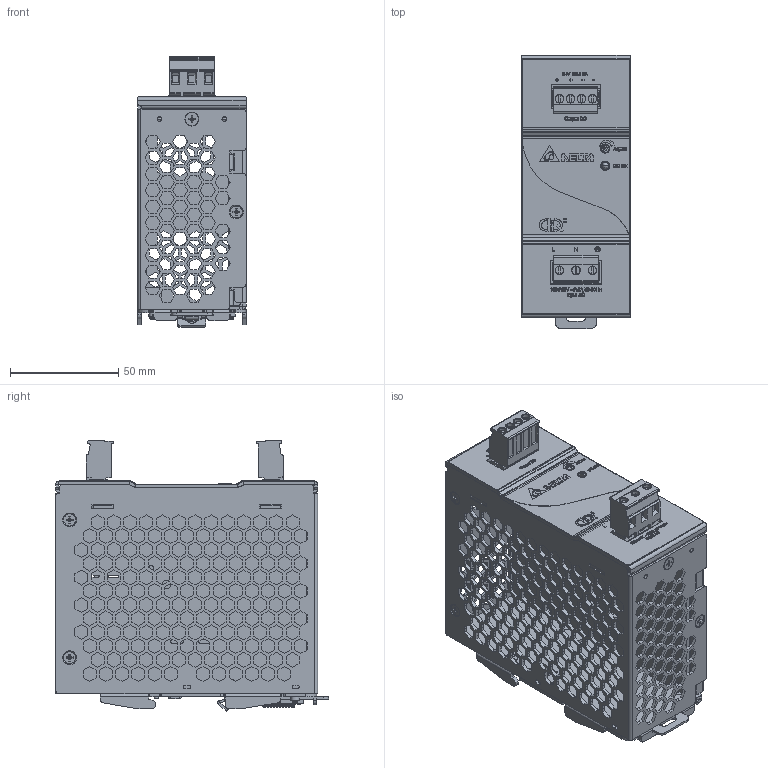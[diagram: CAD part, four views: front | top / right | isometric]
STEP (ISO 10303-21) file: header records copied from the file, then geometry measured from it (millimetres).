
FILE_DESCRIPTION((''),'2;1');
FILE_NAME('DRP024V120W1BA_ASM','2012-04-24T',('Manop.Pr'),(''),'PRO/ENGINEER BY PARAMETRIC TECHNOLOGY CORPORATION, 2010180','PRO/ENGINEER BY PARAMETRIC TECHNOLOGY CORPORATION, 2010180','');
FILE_SCHEMA(('CONFIG_CONTROL_DESIGN','SHAPE_APPEARANCE_LAYERS_GROUPS'));
Products named in the file (26): 330301760000; 330301760000_A_STUD; 330301760000_ASM; 331610470101; 326820070202; 3268209100; 3202315200; 331610480000; 3461303000; 3460088100; 3462026200; ASSY_LATCH_50X100_ASM; 2958042002_PWB; 2968109502_DCT-1095; 3071616046; 3050252046; 3070487546; 3051627246; EE_LED2; ASSY_DCT-1095_ASM; EE_VR-ADJ; ASSY_PWB_MAIN_ASM; 3100000600; 3100000400; 3100020600; DRP024V120W1BA_ASM
Assembly tree (32 placements, depth 4):
  DRP024V120W1BA_ASM
    330301760000_ASM
      330301760000
      330301760000_A_STUD  x2
    331610470101
    326820070202
    3268209100
    3202315200
    331610480000
    ASSY_LATCH_50X100_ASM
      3461303000
      3460088100
      3462026200
    ASSY_PWB_MAIN_ASM
      2958042002_PWB
      ASSY_DCT-1095_ASM
        2968109502_DCT-1095
        3071616046
        3050252046
        3070487546
        3051627246
        EE_LED2
      EE_VR-ADJ
    3100000600  x2
    3100000400  x3
    3100020600  x4
Bounding box: 50.1 x 126.05 x 124.94 mm (x, y, z)
Volume: 98825.3 mm3; surface area: 159391.3 mm2
Topology: 30 solids, 30 shells, 6434 faces, 17735 edges, 11522 vertices
Faces by surface type: plane 4664, cylinder 753, extrusion 634, cone 181, bspline 118, torus 64, sphere 20
Entity records: 263454 total; most frequent: CARTESIAN_POINT 51302, ORIENTED_EDGE 33994, DIRECTION 28944, PRESENTATION_STYLE_ASSIGNMENT 17338, STYLED_ITEM 17020, CURVE_STYLE 16997, EDGE_CURVE 16997, VECTOR 14280
